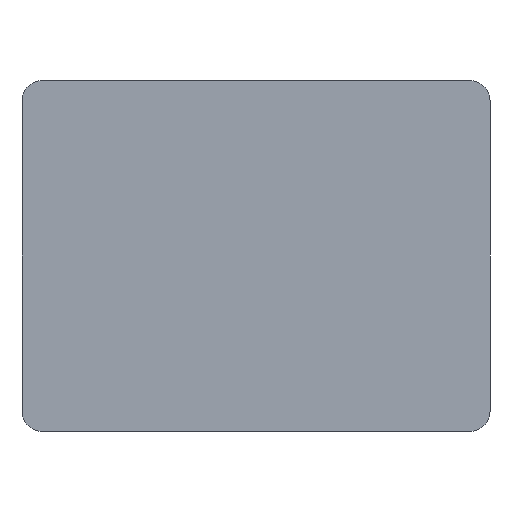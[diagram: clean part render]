
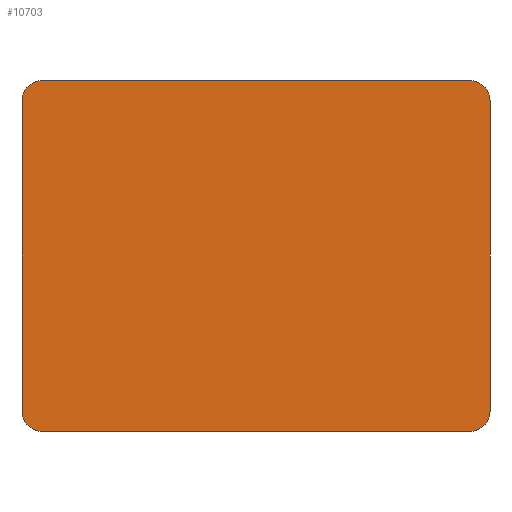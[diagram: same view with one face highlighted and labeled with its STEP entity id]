
A CAD part, left-side view. The second image highlights one B-rep face of the part: STEP entity #10703.
In plain terms, the highlighted planar face has unit normal (-1, 0, 0).
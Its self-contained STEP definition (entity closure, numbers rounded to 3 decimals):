
#1415=PLANE('',#10991);
#1977=FACE_OUTER_BOUND('',#2614,.T.);
#2614=EDGE_LOOP('',(#9908,#9909,#9910,#9911,#9912,#9913,#9914,#9915));
#3380=LINE('',#21789,#4142);
#3385=LINE('',#21818,#4147);
#3394=LINE('',#21861,#4156);
#3397=LINE('',#21870,#4159);
#4142=VECTOR('',#12130,10.);
#4147=VECTOR('',#12171,10.);
#4156=VECTOR('',#12222,10.);
#4159=VECTOR('',#12231,10.);
#4225=CIRCLE('',#10989,7.);
#4226=CIRCLE('',#10992,7.);
#4227=CIRCLE('',#10993,7.);
#4228=CIRCLE('',#10994,7.);
#5254=VERTEX_POINT('',#21783);
#5256=VERTEX_POINT('',#21787);
#5260=VERTEX_POINT('',#21812);
#5262=VERTEX_POINT('',#21816);
#5274=VERTEX_POINT('',#21856);
#5275=VERTEX_POINT('',#21860);
#5277=VERTEX_POINT('',#21867);
#5278=VERTEX_POINT('',#21869);
#6805=EDGE_CURVE('',#5256,#5254,#3380,.T.);
#6812=EDGE_CURVE('',#5262,#5260,#3385,.T.);
#6831=EDGE_CURVE('',#5260,#5274,#4225,.T.);
#6833=EDGE_CURVE('',#5274,#5275,#3394,.T.);
#6836=EDGE_CURVE('',#5254,#5262,#4226,.T.);
#6837=EDGE_CURVE('',#5277,#5256,#4227,.T.);
#6838=EDGE_CURVE('',#5278,#5277,#3397,.T.);
#6839=EDGE_CURVE('',#5275,#5278,#4228,.T.);
#9908=ORIENTED_EDGE('',*,*,#6831,.F.);
#9909=ORIENTED_EDGE('',*,*,#6812,.F.);
#9910=ORIENTED_EDGE('',*,*,#6836,.F.);
#9911=ORIENTED_EDGE('',*,*,#6805,.F.);
#9912=ORIENTED_EDGE('',*,*,#6837,.F.);
#9913=ORIENTED_EDGE('',*,*,#6838,.F.);
#9914=ORIENTED_EDGE('',*,*,#6839,.F.);
#9915=ORIENTED_EDGE('',*,*,#6833,.F.);
#10703=ADVANCED_FACE('',(#1977),#1415,.F.);
#10989=AXIS2_PLACEMENT_3D('',#21857,#12217,#12218);
#10991=AXIS2_PLACEMENT_3D('',#21865,#12225,#12226);
#10992=AXIS2_PLACEMENT_3D('',#21866,#12227,#12228);
#10993=AXIS2_PLACEMENT_3D('',#21868,#12229,#12230);
#10994=AXIS2_PLACEMENT_3D('',#21871,#12232,#12233);
#12130=DIRECTION('',(0.,0.,-1.));
#12171=DIRECTION('',(0.,1.,0.));
#12217=DIRECTION('center_axis',(1.,0.,0.));
#12218=DIRECTION('ref_axis',(0.,0.707,-0.707));
#12222=DIRECTION('',(0.,0.,1.));
#12225=DIRECTION('center_axis',(1.,0.,0.));
#12226=DIRECTION('ref_axis',(0.,1.,0.));
#12227=DIRECTION('center_axis',(1.,0.,0.));
#12228=DIRECTION('ref_axis',(0.,-0.707,-0.707));
#12229=DIRECTION('center_axis',(1.,0.,0.));
#12230=DIRECTION('ref_axis',(0.,-0.707,0.707));
#12231=DIRECTION('',(0.,-1.,0.));
#12232=DIRECTION('center_axis',(1.,0.,0.));
#12233=DIRECTION('ref_axis',(0.,0.707,0.707));
#21783=CARTESIAN_POINT('',(0.,0.,7.));
#21787=CARTESIAN_POINT('',(0.,0.,113.));
#21789=CARTESIAN_POINT('',(0.,0.,120.));
#21812=CARTESIAN_POINT('',(0.,153.,0.));
#21816=CARTESIAN_POINT('',(0.,7.,0.));
#21818=CARTESIAN_POINT('',(0.,0.,0.));
#21856=CARTESIAN_POINT('',(0.,160.,7.));
#21857=CARTESIAN_POINT('Origin',(0.,153.,7.));
#21860=CARTESIAN_POINT('',(0.,160.,113.));
#21861=CARTESIAN_POINT('',(0.,160.,0.));
#21865=CARTESIAN_POINT('Origin',(0.,80.,60.));
#21866=CARTESIAN_POINT('Origin',(0.,7.,7.));
#21867=CARTESIAN_POINT('',(0.,7.,120.));
#21868=CARTESIAN_POINT('Origin',(0.,7.,113.));
#21869=CARTESIAN_POINT('',(0.,153.,120.));
#21870=CARTESIAN_POINT('',(0.,160.,120.));
#21871=CARTESIAN_POINT('Origin',(0.,153.,113.));
